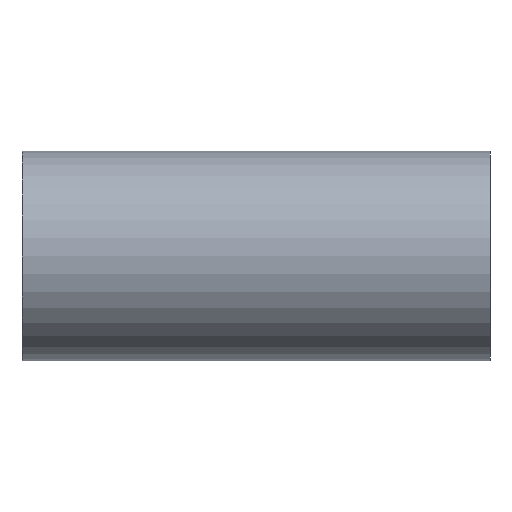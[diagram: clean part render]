
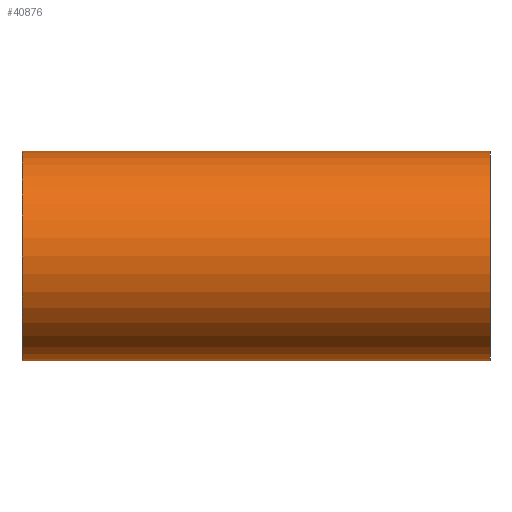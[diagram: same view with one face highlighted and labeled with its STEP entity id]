
A CAD part, front view. The second image highlights one B-rep face of the part: STEP entity #40876.
In plain terms, the highlighted cylindrical face has radius 136.525 mm (diameter 273.05 mm), a partial arc.
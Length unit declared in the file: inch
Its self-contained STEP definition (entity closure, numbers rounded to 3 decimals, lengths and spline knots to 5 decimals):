
#4414 = DIRECTION ( 'NONE',  ( -1., 0., 0. ) ) ;
#4458 = CARTESIAN_POINT ( 'NONE',  ( 12., 0., 0. ) ) ;
#7186 = DIRECTION ( 'NONE',  ( 0., 0., 1. ) ) ;
#10398 = ORIENTED_EDGE ( 'NONE', *, *, #17038, .T. ) ;
#10951 = VERTEX_POINT ( 'NONE', #47740 ) ;
#11716 = CYLINDRICAL_SURFACE ( 'NONE', #52496, 5.375 ) ;
#12428 = DIRECTION ( 'NONE',  ( -1., 0., 0. ) ) ;
#13275 = VERTEX_POINT ( 'NONE', #24771 ) ;
#15434 = CARTESIAN_POINT ( 'NONE',  ( -12., 0., 0. ) ) ;
#15894 = CARTESIAN_POINT ( 'NONE',  ( -12., 0., 5.375 ) ) ;
#16086 = VERTEX_POINT ( 'NONE', #15894 ) ;
#17038 = EDGE_CURVE ( 'NONE', #16086, #10951, #32282, .T. ) ;
#17316 = VECTOR ( 'NONE', #12428, 39.37008 ) ;
#20320 = ORIENTED_EDGE ( 'NONE', *, *, #46345, .F. ) ;
#21450 = VECTOR ( 'NONE', #4414, 39.37008 ) ;
#22888 = DIRECTION ( 'NONE',  ( 1., 0., 0. ) ) ;
#24771 = CARTESIAN_POINT ( 'NONE',  ( 12., 0., 5.375 ) ) ;
#25641 = AXIS2_PLACEMENT_3D ( 'NONE', #4458, #22888, #41366 ) ;
#26014 = ORIENTED_EDGE ( 'NONE', *, *, #55158, .T. ) ;
#27329 = EDGE_CURVE ( 'NONE', #31150, #10951, #27387, .T. ) ;
#27387 = LINE ( 'NONE', #45845, #21450 ) ;
#29095 = EDGE_LOOP ( 'NONE', ( #30360, #20320, #26014, #10398 ) ) ;
#30169 = CARTESIAN_POINT ( 'NONE',  ( 12., 0., 0. ) ) ;
#30360 = ORIENTED_EDGE ( 'NONE', *, *, #27329, .F. ) ;
#31150 = VERTEX_POINT ( 'NONE', #40142 ) ;
#32236 = AXIS2_PLACEMENT_3D ( 'NONE', #15434, #33899, #52326 ) ;
#32282 = CIRCLE ( 'NONE', #32236, 5.375 ) ;
#33899 = DIRECTION ( 'NONE',  ( 1., 0., 0. ) ) ;
#35419 = LINE ( 'NONE', #53832, #17316 ) ;
#40142 = CARTESIAN_POINT ( 'NONE',  ( 12., 0., -5.375 ) ) ;
#40876 = ADVANCED_FACE ( 'NONE', ( #53120 ), #11716, .T. ) ;
#41366 = DIRECTION ( 'NONE',  ( 0., 0., -1. ) ) ;
#45845 = CARTESIAN_POINT ( 'NONE',  ( 12., 0., -5.375 ) ) ;
#46345 = EDGE_CURVE ( 'NONE', #13275, #31150, #51707, .T. ) ;
#47740 = CARTESIAN_POINT ( 'NONE',  ( -12., 0., -5.375 ) ) ;
#48615 = DIRECTION ( 'NONE',  ( -1., 0., 0. ) ) ;
#51707 = CIRCLE ( 'NONE', #25641, 5.375 ) ;
#52326 = DIRECTION ( 'NONE',  ( 0., 0., -1. ) ) ;
#52496 = AXIS2_PLACEMENT_3D ( 'NONE', #30169, #48615, #7186 ) ;
#53120 = FACE_OUTER_BOUND ( 'NONE', #29095, .T. ) ;
#53832 = CARTESIAN_POINT ( 'NONE',  ( 12., 0., 5.375 ) ) ;
#55158 = EDGE_CURVE ( 'NONE', #13275, #16086, #35419, .T. ) ;
